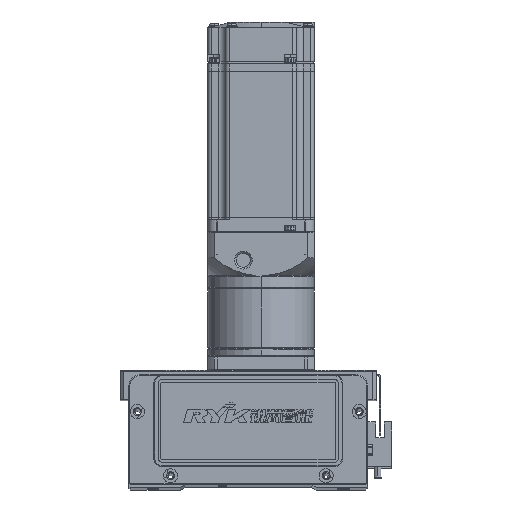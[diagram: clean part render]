
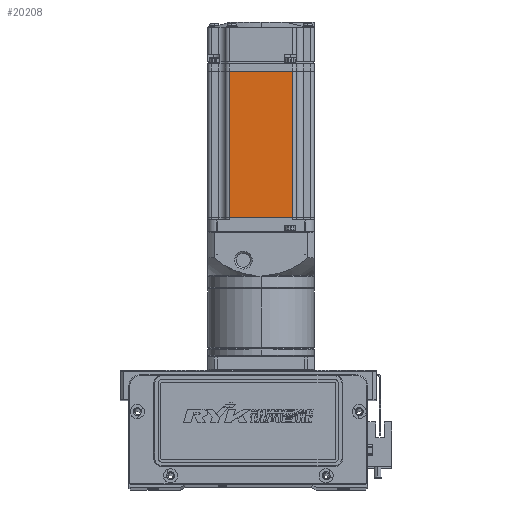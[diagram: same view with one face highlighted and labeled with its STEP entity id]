
A CAD part, top view. The second image highlights one B-rep face of the part: STEP entity #20208.
In plain terms, the highlighted planar face has unit normal (0, 0, 1).
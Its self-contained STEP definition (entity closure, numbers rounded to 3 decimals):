
#2391 = AXIS2_PLACEMENT_3D ( 'NONE', #5047, #15978, #53608 ) ;
#3468 = DIRECTION ( 'NONE',  ( 0., -1., 0. ) ) ;
#5047 = CARTESIAN_POINT ( 'NONE',  ( -6.5, -25., 30. ) ) ;
#10809 = ORIENTED_EDGE ( 'NONE', *, *, #11991, .T. ) ;
#11991 = EDGE_CURVE ( 'NONE', #61979, #32789, #59714, .T. ) ;
#12129 = CARTESIAN_POINT ( 'NONE',  ( -90.45, -18., 30. ) ) ;
#13483 = CARTESIAN_POINT ( 'NONE',  ( -7.75, 18., 30. ) ) ;
#15978 = DIRECTION ( 'NONE',  ( 0., 0., 1. ) ) ;
#20208 = ADVANCED_FACE ( 'NONE', ( #23619 ), #68870, .T. ) ;
#22032 = CARTESIAN_POINT ( 'NONE',  ( -90.45, 18., 30. ) ) ;
#22466 = EDGE_CURVE ( 'NONE', #61979, #67570, #42358, .T. ) ;
#23619 = FACE_OUTER_BOUND ( 'NONE', #51433, .T. ) ;
#24615 = CARTESIAN_POINT ( 'NONE',  ( -6.5, 18., 30. ) ) ;
#27104 = CARTESIAN_POINT ( 'NONE',  ( -7.75, -18., 30. ) ) ;
#28006 = VECTOR ( 'NONE', #39899, 1000. ) ;
#32464 = CARTESIAN_POINT ( 'NONE',  ( -90.45, 0., 30. ) ) ;
#32789 = VERTEX_POINT ( 'NONE', #22032 ) ;
#39899 = DIRECTION ( 'NONE',  ( -1., 0., 0. ) ) ;
#40190 = VERTEX_POINT ( 'NONE', #12129 ) ;
#42358 = LINE ( 'NONE', #46249, #69159 ) ;
#42890 = ORIENTED_EDGE ( 'NONE', *, *, #62171, .F. ) ;
#44978 = VECTOR ( 'NONE', #63762, 1000. ) ;
#45265 = EDGE_CURVE ( 'NONE', #32789, #40190, #66174, .T. ) ;
#45866 = ORIENTED_EDGE ( 'NONE', *, *, #45265, .T. ) ;
#46249 = CARTESIAN_POINT ( 'NONE',  ( -7.75, 0., 30. ) ) ;
#46269 = ORIENTED_EDGE ( 'NONE', *, *, #22466, .F. ) ;
#48250 = CARTESIAN_POINT ( 'NONE',  ( -6.5, -18., 30. ) ) ;
#51433 = EDGE_LOOP ( 'NONE', ( #46269, #10809, #45866, #42890 ) ) ;
#53608 = DIRECTION ( 'NONE',  ( 1., 0., 0. ) ) ;
#56177 = VECTOR ( 'NONE', #66312, 1000. ) ;
#59714 = LINE ( 'NONE', #24615, #28006 ) ;
#61979 = VERTEX_POINT ( 'NONE', #13483 ) ;
#62171 = EDGE_CURVE ( 'NONE', #67570, #40190, #64259, .T. ) ;
#63762 = DIRECTION ( 'NONE',  ( -1., 0., 0. ) ) ;
#64259 = LINE ( 'NONE', #48250, #44978 ) ;
#66174 = LINE ( 'NONE', #32464, #56177 ) ;
#66312 = DIRECTION ( 'NONE',  ( 0., -1., 0. ) ) ;
#67570 = VERTEX_POINT ( 'NONE', #27104 ) ;
#68870 = PLANE ( 'NONE',  #2391 ) ;
#69159 = VECTOR ( 'NONE', #3468, 1000. ) ;
